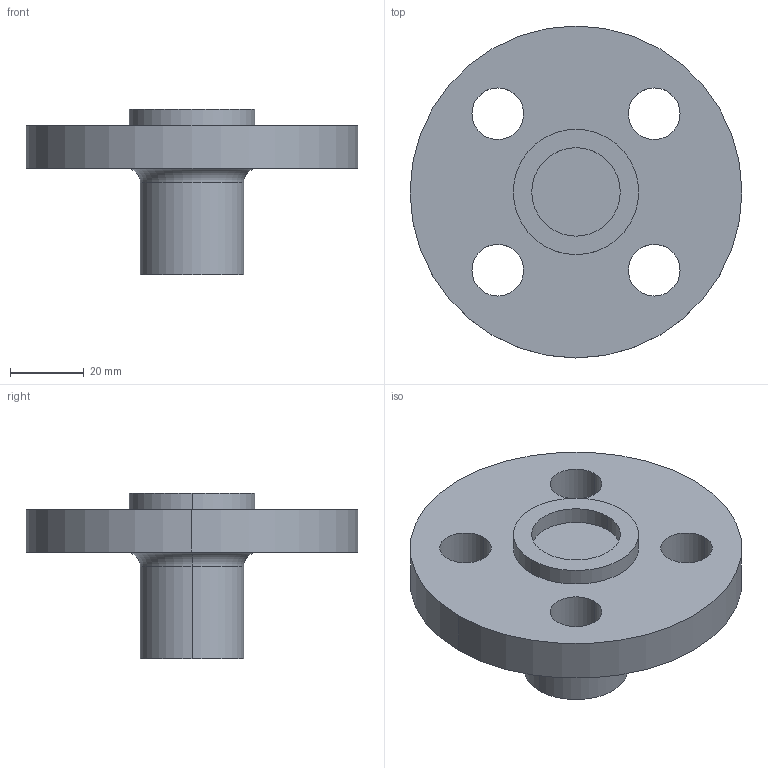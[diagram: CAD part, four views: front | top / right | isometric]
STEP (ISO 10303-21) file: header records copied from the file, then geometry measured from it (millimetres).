
FILE_DESCRIPTION (( 'STEP AP214' ), '1' );
FILE_NAME ('PN40 DN10 Type 21(i) - Type C Face.STEP', '2018-12-29T05:08:36', ( '' ), ( '' ), 'SwSTEP 2.0', 'SolidWorks 2019', '' );
FILE_SCHEMA (( 'AUTOMOTIVE_DESIGN' ));
Length unit declared in the file: millimetre
Products named in the file (1): PN40 DN10 Type 21(i) - Type C Face
Bounding box: 90 x 90 x 45 mm (x, y, z)
Volume: 86306.7 mm3; surface area: 19993.7 mm2
Topology: 1 solids, 1 shells, 23 faces, 52 edges, 34 vertices
Faces by surface type: cylinder 16, plane 5, torus 2
Entity records: 716 total; most frequent: DIRECTION 136, CARTESIAN_POINT 110, ORIENTED_EDGE 104, AXIS2_PLACEMENT_3D 60, EDGE_CURVE 52, CIRCLE 36, VERTEX_POINT 34, EDGE_LOOP 34
